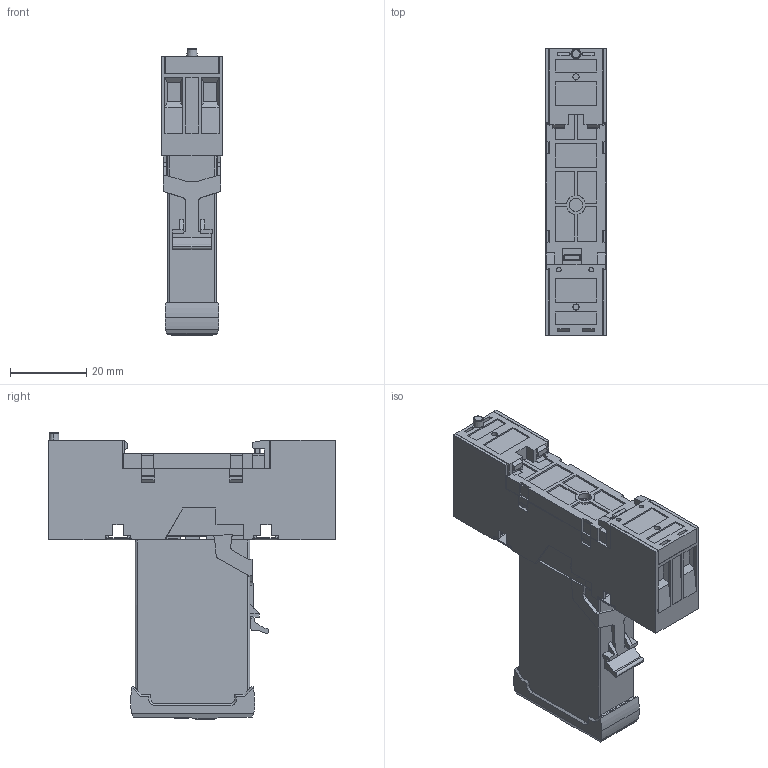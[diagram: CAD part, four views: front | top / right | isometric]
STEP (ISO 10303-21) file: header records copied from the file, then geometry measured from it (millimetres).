
FILE_DESCRIPTION (( 'STEP AP214' ), '1' );
FILE_NAME ('S10-GR & R10-Z1.STEP', '2021-03-11T14:41:14', ( '' ), ( '' ), 'SwSTEP 2.0', 'SolidWorks 2016', '' );
FILE_SCHEMA (( 'AUTOMOTIVE_DESIGN' ));
Length unit declared in the file: millimetre
Products named in the file (1): S10-GR & R10-Z1
Bounding box: 16 x 75.3 x 75.3 mm (x, y, z)
Volume: 45110.9 mm3; surface area: 16446.1 mm2
Topology: 5 solids, 5 shells, 1485 faces, 4012 edges, 2599 vertices
Faces by surface type: plane 1098, cylinder 202, bspline 169, cone 8, sphere 8
Entity records: 72460 total; most frequent: CARTESIAN_POINT 20418, ORIENTED_EDGE 8000, DIRECTION 6294, EDGE_CURVE 4000, VECTOR 3226, LINE 3226, VERTEX_POINT 2599, EDGE_LOOP 1587
